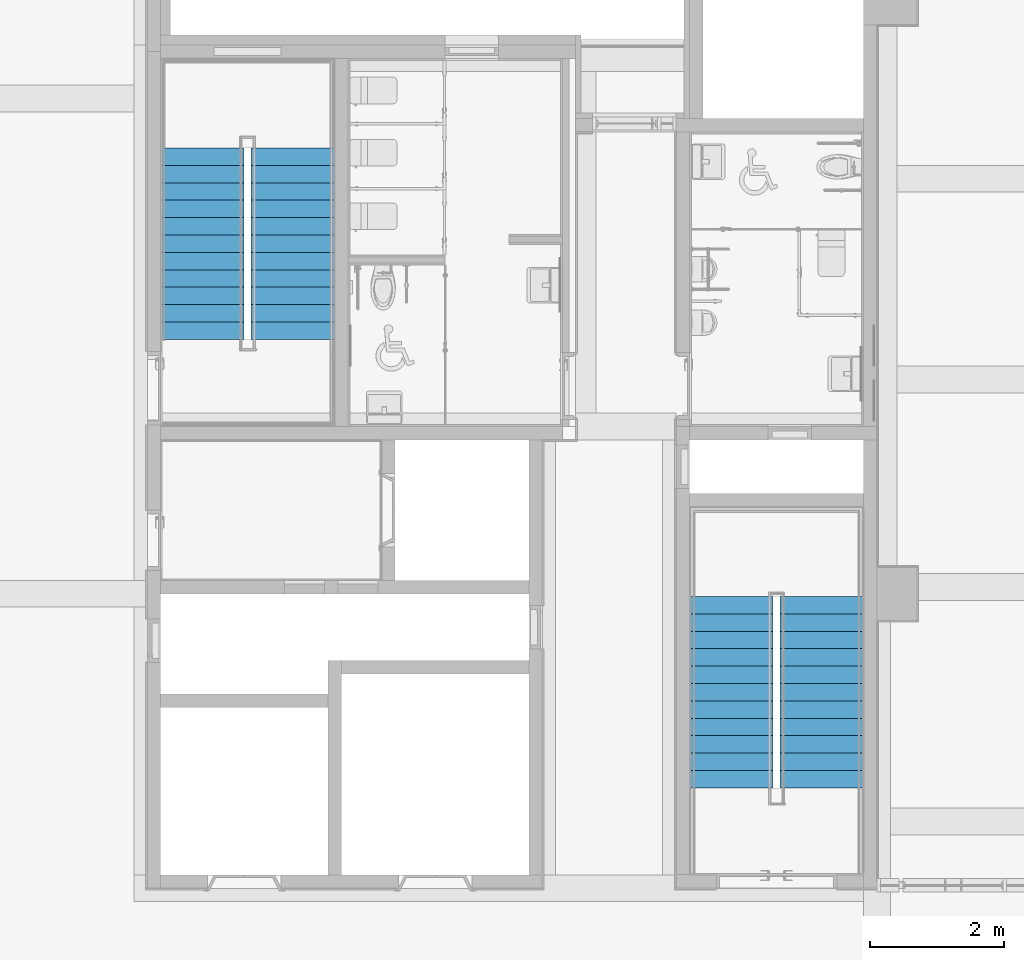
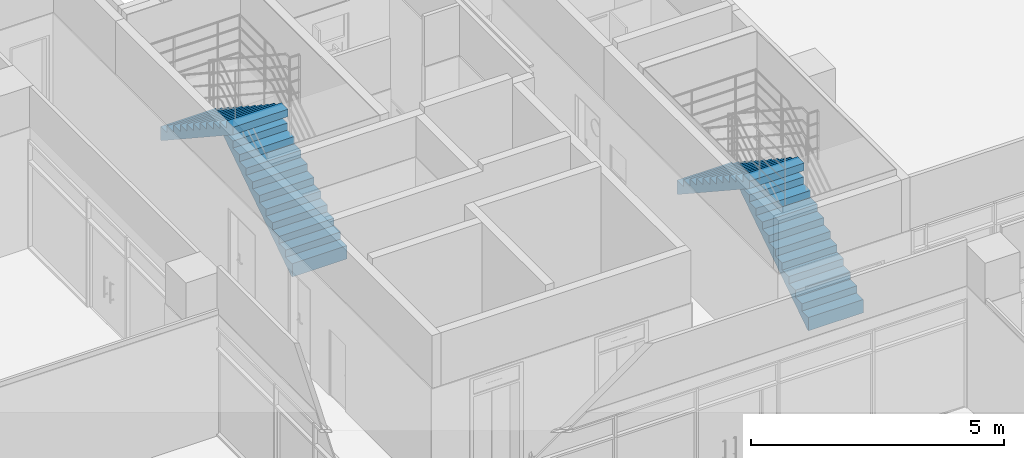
# One storey, part 65 of 76: 4 stair flights, 2 elements without a shape of their own.
"""IFC2X3 building model written with IfcOpenShell, lengths in millimetres."""

from ifc_helpers import new_model, entity, si_unit, converted_unit, derived_unit, direction, frame, origin, place, context, subcontext, project, spatial, faceted_brep, material, type_object, element, aggregate, save


model = new_model("IFC2X3")

# Units and contexts
model_context = context("Model", 3, precision=0.01, world=origin(), true_north=direction((6.123031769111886e-17, 1.0)))
body_context = subcontext(model_context, "Body", "Model", "MODEL_VIEW")
ifc_project = project(units=[si_unit("LENGTHUNIT", "METRE", prefix="MILLI"), si_unit("AREAUNIT", "SQUARE_METRE"), si_unit("VOLUMEUNIT", "CUBIC_METRE"), converted_unit("PLANEANGLEUNIT", "DEGREE", entity("IfcRatioMeasure", 0.017453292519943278), si_unit("PLANEANGLEUNIT", "RADIAN"), dimensions=[0, 0, 0, 0, 0, 0, 0]), si_unit("MASSUNIT", "GRAM", prefix="KILO"), derived_unit("MASSDENSITYUNIT", [(si_unit("MASSUNIT", "GRAM", prefix="KILO"), 1), (si_unit("LENGTHUNIT", "METRE"), -3)]), derived_unit("MOMENTOFINERTIAUNIT", [(si_unit("LENGTHUNIT", "METRE"), 4)]), si_unit("TIMEUNIT", "SECOND"), si_unit("FREQUENCYUNIT", "HERTZ"), si_unit("THERMODYNAMICTEMPERATUREUNIT", "DEGREE_CELSIUS"), derived_unit("THERMALTRANSMITTANCEUNIT", [(si_unit("MASSUNIT", "GRAM", prefix="KILO"), 1), (si_unit("THERMODYNAMICTEMPERATUREUNIT", "KELVIN"), -1), (si_unit("TIMEUNIT", "SECOND"), -3)]), derived_unit("VOLUMETRICFLOWRATEUNIT", [(si_unit("LENGTHUNIT", "METRE"), 3), (si_unit("TIMEUNIT", "SECOND"), -1)]), derived_unit("MASSFLOWRATEUNIT", [(si_unit("MASSUNIT", "GRAM", prefix="KILO"), 1), (si_unit("TIMEUNIT", "SECOND"), -1)]), derived_unit("ROTATIONALFREQUENCYUNIT", [(si_unit("TIMEUNIT", "SECOND"), -1)]), si_unit("ELECTRICCURRENTUNIT", "AMPERE"), si_unit("ELECTRICVOLTAGEUNIT", "VOLT"), si_unit("POWERUNIT", "WATT"), si_unit("FORCEUNIT", "NEWTON", prefix="KILO"), si_unit("ILLUMINANCEUNIT", "LUX"), si_unit("LUMINOUSFLUXUNIT", "LUMEN"), si_unit("LUMINOUSINTENSITYUNIT", "CANDELA"), derived_unit("USERDEFINED", [(si_unit("MASSUNIT", "GRAM", prefix="KILO"), -1), (si_unit("LENGTHUNIT", "METRE"), -2), (si_unit("TIMEUNIT", "SECOND"), 3), (si_unit("LUMINOUSFLUXUNIT", "LUMEN"), 1)]), derived_unit("SOUNDPOWERUNIT", [(si_unit("MASSUNIT", "GRAM", prefix="KILO"), 1), (si_unit("LENGTHUNIT", "METRE"), 2), (si_unit("TIMEUNIT", "SECOND"), -3)]), derived_unit("SOUNDPRESSUREUNIT", [(si_unit("MASSUNIT", "GRAM", prefix="KILO"), 1), (si_unit("LENGTHUNIT", "METRE"), -1), (si_unit("TIMEUNIT", "SECOND"), -2)]), derived_unit("LINEARVELOCITYUNIT", [(si_unit("LENGTHUNIT", "METRE"), 1), (si_unit("TIMEUNIT", "SECOND"), -1)]), si_unit("PRESSUREUNIT", "PASCAL"), derived_unit("USERDEFINED", [(si_unit("LENGTHUNIT", "METRE"), -2), (si_unit("MASSUNIT", "GRAM", prefix="KILO"), 1), (si_unit("TIMEUNIT", "SECOND"), -2)]), derived_unit("LINEARFORCEUNIT", [(si_unit("MASSUNIT", "GRAM", prefix="KILO"), 1), (si_unit("LENGTHUNIT", "METRE"), 1), (si_unit("TIMEUNIT", "SECOND"), -2), (si_unit("LENGTHUNIT", "METRE"), -1)]), derived_unit("PLANARFORCEUNIT", [(si_unit("MASSUNIT", "GRAM", prefix="KILO"), 1), (si_unit("LENGTHUNIT", "METRE"), 1), (si_unit("TIMEUNIT", "SECOND"), -2), (si_unit("LENGTHUNIT", "METRE"), -2)])], contexts=[model_context])

# Site, building, storey
site_placement = place(None, frame((-14167.972527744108, -657.2125860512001, 0.0)))
site = spatial("IfcSite", under=ifc_project, at=site_placement, Name="Default", CompositionType="ELEMENT")
building_placement = place(site_placement, origin())
building = spatial("IfcBuilding", under=site, at=building_placement, Name="Sample Building", CompositionType="ELEMENT")
storey_placement = place(building_placement, frame((0.0, 0.0, 9300.0)))
storey = spatial("IfcBuildingStorey", under=building, at=storey_placement, Name="지상 3층", CompositionType="ELEMENT", Elevation=9300.000000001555)

# Stair, stair flights
stair_1_placement = place(storey_placement, origin())
stair_1 = element("IfcStair", 1, at=stair_1_placement, inside=storey, Name="현장타설 계단:계단", ObjectType="현장타설 계단:ST111-철근콘크리트구조 계단 (U형)", ShapeType="NOTDEFINED")
ifc_material = material(Name="KBIMS-콘크리트")
stair_flight_type_1 = type_object("IfcStairFlightType", Name="일체형 계단진행:일체형 계단진행 150mm_철근콘크리트", PredefinedType="STRAIGHT")
stair_flight_1_placement = place(stair_1_placement, frame((31616.117033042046, 23757.17779328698, 0.0)))
stair_flight_1 = element("IfcStairFlight", 2, at=stair_flight_1_placement, type_object=stair_flight_type_1, material=ifc_material, Name="현장타설 계단:계단:5314813 Run 1", ObjectType="일체형 계단진행:일체형 계단진행 150mm_철근콘크리트", NumberOfRiser=12, NumberOfTreads=11, RiserHeight=0.5604768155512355, TreadLength=0.8530183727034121, context=body_context, shape_type="Brep", body=[
    faceted_brep([(0.0, 260.0, 170.833332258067), (0.0, 0.0, 170.833332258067), (1250.0087814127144, 0.0, 170.833332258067), (1250.0087814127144, 260.0, 170.833332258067), (0.0, 260.0, -8.648195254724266), (0.0, 44.86944673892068, -150.00000112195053), (0.0, 0.0, -150.00000112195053), (1250.0087814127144, 0.0, -150.00000112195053), (1250.0087814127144, 44.86944673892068, -150.00000112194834), (1250.0087814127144, 260.0, -8.648195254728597), (0.0, 520.0, 341.66666563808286), (0.0, 260.0, 341.66666563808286), (1250.0087814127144, 260.0, 341.66666563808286), (1250.0087814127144, 520.0, 341.66666563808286), (0.0, 520.0, 162.18513812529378), (1250.0087814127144, 520.0, 162.18513812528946), (0.0, 780.0, 512.4999990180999), (0.0, 520.0, 512.4999990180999), (1250.0087814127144, 520.0, 512.4999990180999), (1250.0087814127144, 780.0, 512.4999990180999), (0.0, 780.0, 333.0184715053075), (1250.0087814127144, 780.0, 333.01847150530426), (0.0, 1040.0, 683.3333323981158), (0.0, 780.0, 683.3333323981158), (1250.0087814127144, 780.0, 683.3333323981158), (1250.0087814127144, 1040.0, 683.3333323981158), (0.0, 1040.0, 503.85180488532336), (1250.0087814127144, 1040.0, 503.8518048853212), (0.0, 1300.0, 854.1666657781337), (0.0, 1040.0, 854.1666657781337), (1250.0087814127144, 1040.0, 854.1666657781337), (1250.0087814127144, 1300.0, 854.1666657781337), (0.0, 1300.0, 674.6851382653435), (1250.0087814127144, 1300.0, 674.6851382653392), (0.0, 1560.0, 1025.0), (0.0, 1300.0, 1025.0), (1250.0087814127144, 1300.0, 1025.0), (1250.0087814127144, 1560.0, 1025.0), (0.0, 1560.0, 845.5184716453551), (1250.0087814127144, 1560.0, 845.518471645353), (0.0, 1820.0, 1195.8333325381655), (0.0, 1560.0, 1195.8333325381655), (1250.0087814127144, 1560.0, 1195.8333325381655), (1250.0087814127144, 1820.0, 1195.8333325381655), (0.0, 1820.0, 1016.3518050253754), (1250.0087814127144, 1820.0, 1016.351805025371), (0.0, 2080.0, 1366.6666659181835), (0.0, 1820.0, 1366.6666659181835), (1250.0087814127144, 1820.0, 1366.6666659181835), (1250.0087814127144, 2080.0, 1366.6666659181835), (0.0, 2080.0, 1187.1851384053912), (1250.0087814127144, 2080.0, 1187.1851384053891), (0.0, 2340.0, 1537.4999992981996), (0.0, 2080.0, 1537.4999992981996), (1250.0087814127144, 2080.0, 1537.4999992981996), (1250.0087814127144, 2340.0, 1537.4999992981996), (0.0, 2340.0, 1358.018471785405), (1250.0087814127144, 2340.0, 1358.0184717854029), (0.0, 2600.0, 1708.3333326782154), (0.0, 2340.0, 1708.3333326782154), (1250.0087814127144, 2340.0, 1708.3333326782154), (1250.0087814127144, 2600.0, 1708.3333326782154), (0.0, 2600.0, 1528.851805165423), (1250.0087814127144, 2600.0, 1528.8518051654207), (0.0, 2860.0, 1879.1666660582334), (0.0, 2600.0, 1879.1666660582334), (1250.0087814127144, 2600.0, 1879.1666660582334), (1250.0087814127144, 2860.0, 1879.1666660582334), (0.0, 2860.0, 1699.685138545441), (1250.0087814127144, 2860.0, 1699.6851385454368)], [[[0, 1, 2, 3]], [[1, 0, 4, 5, 6]], [[2, 1, 6, 7]], [[3, 2, 7, 8, 9]], [[10, 11, 12, 13]], [[11, 10, 14, 4, 0]], [[0, 3, 12, 11]], [[13, 12, 3, 9, 15]], [[16, 17, 18, 19]], [[17, 16, 20, 14, 10]], [[10, 13, 18, 17]], [[19, 18, 13, 15, 21]], [[22, 23, 24, 25]], [[23, 22, 26, 20, 16]], [[16, 19, 24, 23]], [[25, 24, 19, 21, 27]], [[28, 29, 30, 31]], [[29, 28, 32, 26, 22]], [[22, 25, 30, 29]], [[31, 30, 25, 27, 33]], [[34, 35, 36, 37]], [[35, 34, 38, 32, 28]], [[28, 31, 36, 35]], [[37, 36, 31, 33, 39]], [[40, 41, 42, 43]], [[41, 40, 44, 38, 34]], [[34, 37, 42, 41]], [[43, 42, 37, 39, 45]], [[46, 47, 48, 49]], [[47, 46, 50, 44, 40]], [[40, 43, 48, 47]], [[49, 48, 43, 45, 51]], [[52, 53, 54, 55]], [[53, 52, 56, 50, 46]], [[46, 49, 54, 53]], [[55, 54, 49, 51, 57]], [[58, 59, 60, 61]], [[59, 58, 62, 56, 52]], [[52, 55, 60, 59]], [[61, 60, 55, 57, 63]], [[64, 65, 66, 67]], [[65, 64, 68, 62, 58]], [[58, 61, 66, 65]], [[67, 66, 61, 63, 69]], [[64, 67, 69, 68]], [[7, 6, 5, 8]], [[8, 5, 4, 14, 20, 26, 32, 38, 44, 50, 56, 62, 68, 69, 63, 57, 51, 45, 39, 33, 27, 21, 15, 9]]]),
])
stair_flight_type_2 = type_object("IfcStairFlightType", Name="일체형 계단진행:일체형 계단진행 150mm_철근콘크리트", PredefinedType="STRAIGHT")
stair_flight_2_placement = place(stair_1_placement, frame((30266.125814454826, 23757.143387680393, 0.0)))
stair_flight_2 = element("IfcStairFlight", 3, at=stair_flight_2_placement, type_object=stair_flight_type_2, material=ifc_material, Name="현장타설 계단:계단:5314813 Run 2", ObjectType="일체형 계단진행:일체형 계단진행 150mm_철근콘크리트", NumberOfRiser=12, NumberOfTreads=11, RiserHeight=0.5604768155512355, TreadLength=0.8530183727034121, context=body_context, shape_type="Brep", body=[
    faceted_brep([(1249.9990872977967, 2860.0, 2220.8333328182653), (0.0, 2860.0, 2220.8333328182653), (0.0, 2815.130553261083, 2220.8333328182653), (0.0, 2600.0, 2220.8333328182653), (1249.9990872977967, 2600.0, 2220.8333328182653), (1249.9990872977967, 2815.130553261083, 2220.8333328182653), (1249.9990872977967, 2600.0, 2041.3518053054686), (1249.9990872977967, 2815.130553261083, 1900.0), (1249.9990872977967, 2860.0, 1900.0), (0.0, 2860.0, 1900.0), (0.0, 2860.0, 2050.0), (0.0, 2815.130553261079, 1900.0), (0.0, 2600.0, 2041.3518053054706), (1249.9990872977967, 2340.0, 2391.666666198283), (1249.9990872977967, 2600.0, 2391.666666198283), (0.0, 2600.0, 2391.666666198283), (0.0, 2340.0, 2391.666666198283), (1249.9990872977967, 2340.0, 2212.185138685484), (0.0, 2340.0, 2212.185138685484), (1249.9990872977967, 2080.0, 2562.499999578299), (1249.9990872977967, 2340.0, 2562.499999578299), (0.0, 2340.0, 2562.499999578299), (0.0, 2080.0, 2562.499999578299), (1249.9990872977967, 2080.0, 2383.0184720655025), (0.0, 2080.0, 2383.0184720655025), (1249.9990872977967, 1820.0, 2733.333332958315), (1249.9990872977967, 2080.0, 2733.333332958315), (0.0, 2080.0, 2733.333332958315), (0.0, 1820.0, 2733.333332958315), (1249.9990872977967, 1820.0, 2553.8518054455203), (0.0, 1820.0, 2553.8518054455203), (1249.9990872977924, 1560.0, 2904.166666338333), (1249.9990872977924, 1820.0, 2904.166666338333), (0.0, 1820.0, 2904.166666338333), (0.0, 1560.0, 2904.166666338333), (1249.9990872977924, 1560.0, 2724.6851388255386), (0.0, 1560.0, 2724.685138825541), (1249.9990872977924, 1300.0, 3075.0), (1249.9990872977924, 1560.0, 3075.0), (0.0, 1560.0, 3075.0), (0.0, 1300.0, 3075.0), (1249.9990872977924, 1300.0, 2895.5184722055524), (0.0, 1300.0, 2895.5184722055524), (1249.9990872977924, 1040.0, 3245.8333330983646), (1249.9990872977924, 1300.0, 3245.8333330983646), (0.0, 1300.0, 3245.8333330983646), (0.0, 1040.0, 3245.8333330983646), (1249.9990872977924, 1040.0, 3066.35180558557), (0.0, 1040.0, 3066.35180558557), (1249.9990872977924, 780.0, 3416.666666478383), (1249.9990872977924, 1040.0, 3416.666666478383), (0.0, 1040.0, 3416.666666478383), (0.0, 780.0, 3416.666666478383), (1249.9990872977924, 780.0, 3237.185138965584), (0.0, 780.0, 3237.1851389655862), (1249.9990872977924, 520.0, 3587.4999998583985), (1249.9990872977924, 780.0, 3587.4999998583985), (0.0, 780.0, 3587.4999998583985), (0.0, 520.0, 3587.4999998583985), (1249.9990872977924, 520.0, 3408.0184723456), (0.0, 520.0, 3408.018472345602), (1249.9990872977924, 260.0, 3578.851805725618), (1249.9990872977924, 0.0, 3749.6851391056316), (0.0, 0.0, 3749.685139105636), (0.0, 260.0, 3578.851805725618), (1249.9990872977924, 260.0, 3758.3333332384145), (1249.9990872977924, 520.0, 3758.3333332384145), (0.0, 520.0, 3758.3333332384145), (0.0, 260.0, 3758.3333332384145), (1249.9990872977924, 0.0, 3929.166666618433), (1249.9990872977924, 260.0, 3929.166666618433), (0.0, 260.0, 3929.166666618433), (0.0, 0.0, 3929.166666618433)], [[[0, 1, 2, 3, 4, 5]], [[4, 6, 7, 8, 0, 5]], [[1, 0, 8, 9, 10]], [[1, 10, 9, 11, 12, 3, 2]], [[13, 14, 15, 16]], [[14, 13, 17, 6, 4]], [[15, 14, 4, 3]], [[16, 15, 3, 12, 18]], [[19, 20, 21, 22]], [[20, 19, 23, 17, 13]], [[21, 20, 13, 16]], [[22, 21, 16, 18, 24]], [[25, 26, 27, 28]], [[26, 25, 29, 23, 19]], [[27, 26, 19, 22]], [[28, 27, 22, 24, 30]], [[31, 32, 33, 34]], [[32, 31, 35, 29, 25]], [[33, 32, 25, 28]], [[34, 33, 28, 30, 36]], [[37, 38, 39, 40]], [[38, 37, 41, 35, 31]], [[39, 38, 31, 34]], [[40, 39, 34, 36, 42]], [[43, 44, 45, 46]], [[44, 43, 47, 41, 37]], [[45, 44, 37, 40]], [[46, 45, 40, 42, 48]], [[49, 50, 51, 52]], [[50, 49, 53, 47, 43]], [[51, 50, 43, 46]], [[52, 51, 46, 48, 54]], [[55, 56, 57, 58]], [[56, 55, 59, 53, 49]], [[57, 56, 49, 52]], [[58, 57, 52, 54, 60]], [[11, 7, 6, 17, 23, 29, 35, 41, 47, 53, 59, 61, 62, 63, 64, 60, 54, 48, 42, 36, 30, 24, 18, 12]], [[7, 11, 9, 8]], [[65, 66, 67, 68]], [[66, 65, 61, 59, 55]], [[67, 66, 55, 58]], [[68, 67, 58, 60, 64]], [[69, 70, 71, 72]], [[70, 69, 62, 61, 65]], [[71, 70, 65, 68]], [[72, 71, 68, 64, 63]], [[69, 72, 63, 62]]]),
])
aggregate(stair_1, [stair_flight_1, stair_flight_2])

stair_2_placement = place(storey_placement, origin())
stair_2 = element("IfcStair", 4, at=stair_2_placement, inside=storey, Name="현장타설 계단:계단", ObjectType="현장타설 계단:ST111-철근콘크리트구조 계단 (U형)", ShapeType="NOTDEFINED")
stair_flight_type_3 = type_object("IfcStairFlightType", Name="일체형 계단진행:일체형 계단진행 150mm_철근콘크리트", PredefinedType="STRAIGHT")
stair_flight_3_placement = place(stair_2_placement, frame((39515.97820509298, 17057.17778994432, 0.0)))
stair_flight_3 = element("IfcStairFlight", 5, at=stair_flight_3_placement, type_object=stair_flight_type_3, material=ifc_material, Name="현장타설 계단:계단:5315225 Run 1", ObjectType="일체형 계단진행:일체형 계단진행 150mm_철근콘크리트", NumberOfRiser=12, NumberOfTreads=11, RiserHeight=0.5604768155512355, TreadLength=0.8530183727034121, context=body_context, shape_type="Brep", body=[
    faceted_brep([(0.0, 260.0, 170.833332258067), (0.0, 0.0, 170.833332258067), (1250.0087814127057, 0.0, 170.833332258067), (1250.0087814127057, 260.0, 170.833332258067), (0.0, 260.0, -8.648195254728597), (0.0, 44.86944673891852, -150.00000112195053), (0.0, 0.0, -150.00000112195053), (1250.0087814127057, 0.0, -150.00000112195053), (1250.0087814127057, 44.86944673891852, -150.00000112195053), (1250.0087814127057, 260.0, -8.64819525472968), (0.0, 520.0, 341.66666563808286), (0.0, 260.0, 341.66666563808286), (1250.0087814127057, 260.0, 341.66666563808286), (1250.0087814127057, 520.0, 341.66666563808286), (0.0, 520.0, 162.1851381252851), (1250.0087814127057, 520.0, 162.1851381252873), (0.0, 780.0, 512.4999990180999), (0.0, 520.0, 512.4999990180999), (1250.0087814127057, 520.0, 512.4999990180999), (1250.0087814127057, 780.0, 512.4999990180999), (0.0, 780.0, 333.0184715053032), (1250.0087814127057, 780.0, 333.01847150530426), (0.0, 1040.0, 683.3333323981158), (0.0, 780.0, 683.3333323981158), (1250.0087814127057, 780.0, 683.3333323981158), (1250.0087814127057, 1040.0, 683.3333323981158), (0.0, 1040.0, 503.8518048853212), (1250.0087814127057, 1040.0, 503.8518048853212), (0.0, 1300.0, 854.1666657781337), (0.0, 1040.0, 854.1666657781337), (1250.0087814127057, 1040.0, 854.1666657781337), (1250.0087814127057, 1300.0, 854.1666657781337), (0.0, 1300.0, 674.6851382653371), (1250.0087814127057, 1300.0, 674.6851382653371), (0.0, 1560.0, 1025.0), (0.0, 1300.0, 1025.0), (1250.0087814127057, 1300.0, 1025.0), (1250.0087814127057, 1560.0, 1025.0), (0.0, 1560.0, 845.518471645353), (1250.0087814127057, 1560.0, 845.5184716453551), (0.0, 1820.0, 1195.8333325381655), (0.0, 1560.0, 1195.8333325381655), (1250.0087814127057, 1560.0, 1195.8333325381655), (1250.0087814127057, 1820.0, 1195.8333325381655), (0.0, 1820.0, 1016.3518050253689), (1250.0087814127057, 1820.0, 1016.351805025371), (0.0, 2080.0, 1366.6666659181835), (0.0, 1820.0, 1366.6666659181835), (1250.0087814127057, 1820.0, 1366.6666659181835), (1250.0087814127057, 2080.0, 1366.6666659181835), (0.0, 2080.0, 1187.1851384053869), (1250.0087814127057, 2080.0, 1187.1851384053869), (0.0, 2340.0, 1537.4999992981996), (0.0, 2080.0, 1537.4999992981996), (1250.0087814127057, 2080.0, 1537.4999992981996), (1250.0087814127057, 2340.0, 1537.4999992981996), (0.0, 2340.0, 1358.0184717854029), (1250.0087814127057, 2340.0, 1358.0184717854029), (0.0, 2600.0, 1708.3333326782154), (0.0, 2340.0, 1708.3333326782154), (1250.0087814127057, 2340.0, 1708.3333326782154), (1250.0087814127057, 2600.0, 1708.3333326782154), (0.0, 2600.0, 1528.8518051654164), (1250.0087814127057, 2600.0, 1528.8518051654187), (0.0, 2860.0, 1879.1666660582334), (0.0, 2600.0, 1879.1666660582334), (1250.0087814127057, 2600.0, 1879.1666660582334), (1250.0087814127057, 2860.0, 1879.1666660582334), (0.0, 2860.0, 1699.6851385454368), (1250.0087814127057, 2860.0, 1699.6851385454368)], [[[0, 1, 2, 3]], [[1, 0, 4, 5, 6]], [[2, 1, 6, 7]], [[3, 2, 7, 8, 9]], [[10, 11, 12, 13]], [[11, 10, 14, 4, 0]], [[0, 3, 12, 11]], [[13, 12, 3, 9, 15]], [[16, 17, 18, 19]], [[17, 16, 20, 14, 10]], [[10, 13, 18, 17]], [[19, 18, 13, 15, 21]], [[22, 23, 24, 25]], [[23, 22, 26, 20, 16]], [[16, 19, 24, 23]], [[25, 24, 19, 21, 27]], [[28, 29, 30, 31]], [[29, 28, 32, 26, 22]], [[22, 25, 30, 29]], [[31, 30, 25, 27, 33]], [[34, 35, 36, 37]], [[35, 34, 38, 32, 28]], [[28, 31, 36, 35]], [[37, 36, 31, 33, 39]], [[40, 41, 42, 43]], [[41, 40, 44, 38, 34]], [[34, 37, 42, 41]], [[43, 42, 37, 39, 45]], [[46, 47, 48, 49]], [[47, 46, 50, 44, 40]], [[40, 43, 48, 47]], [[49, 48, 43, 45, 51]], [[52, 53, 54, 55]], [[53, 52, 56, 50, 46]], [[46, 49, 54, 53]], [[55, 54, 49, 51, 57]], [[58, 59, 60, 61]], [[59, 58, 62, 56, 52]], [[52, 55, 60, 59]], [[61, 60, 55, 57, 63]], [[64, 65, 66, 67]], [[65, 64, 68, 62, 58]], [[58, 61, 66, 65]], [[67, 66, 61, 63, 69]], [[64, 67, 69, 68]], [[7, 6, 5, 8]], [[8, 5, 4, 14, 20, 26, 32, 38, 44, 50, 56, 62, 68, 69, 63, 57, 51, 45, 39, 33, 27, 21, 15, 9]]]),
])
stair_flight_type_4 = type_object("IfcStairFlightType", Name="일체형 계단진행:일체형 계단진행 150mm_철근콘크리트", PredefinedType="STRAIGHT")
stair_flight_4_placement = place(stair_2_placement, frame((38165.986986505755, 17057.14338433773, 0.0)))
stair_flight_4 = element("IfcStairFlight", 6, at=stair_flight_4_placement, type_object=stair_flight_type_4, material=ifc_material, Name="현장타설 계단:계단:5315225 Run 2", ObjectType="일체형 계단진행:일체형 계단진행 150mm_철근콘크리트", NumberOfRiser=12, NumberOfTreads=11, RiserHeight=0.5604768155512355, TreadLength=0.8530183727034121, context=body_context, shape_type="Brep", body=[
    faceted_brep([(1249.999087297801, 2860.0, 2220.8333328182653), (0.0, 2860.0, 2220.8333328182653), (0.0, 2815.130553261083, 2220.8333328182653), (0.0, 2600.0, 2220.8333328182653), (1249.999087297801, 2600.0, 2220.8333328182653), (1249.999087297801, 2815.130553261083, 2220.8333328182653), (1249.999087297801, 2600.0, 2041.3518053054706), (1249.999087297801, 2815.130553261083, 1900.0), (1249.999087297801, 2860.0, 1900.0), (0.0, 2860.0, 1900.0), (0.0, 2860.0, 2050.0), (0.0, 2815.130553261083, 1900.0), (0.0, 2600.0, 2041.3518053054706), (1249.999087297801, 2340.0, 2391.666666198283), (1249.999087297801, 2600.0, 2391.666666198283), (0.0, 2600.0, 2391.666666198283), (0.0, 2340.0, 2391.666666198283), (1249.999087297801, 2340.0, 2212.1851386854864), (0.0, 2340.0, 2212.1851386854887), (1249.999087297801, 2080.0, 2562.499999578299), (1249.999087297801, 2340.0, 2562.499999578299), (0.0, 2340.0, 2562.499999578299), (0.0, 2080.0, 2562.499999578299), (1249.999087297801, 2080.0, 2383.0184720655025), (0.0, 2080.0, 2383.0184720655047), (1249.999087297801, 1820.0, 2733.333332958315), (1249.999087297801, 2080.0, 2733.333332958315), (0.0, 2080.0, 2733.333332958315), (0.0, 1820.0, 2733.333332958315), (1249.999087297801, 1820.0, 2553.8518054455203), (0.0, 1820.0, 2553.8518054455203), (1249.999087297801, 1560.0, 2904.166666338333), (1249.999087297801, 1820.0, 2904.166666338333), (0.0, 1820.0, 2904.166666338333), (0.0, 1560.0, 2904.166666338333), (1249.999087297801, 1560.0, 2724.6851388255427), (0.0, 1560.0, 2724.6851388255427), (1249.999087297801, 1300.0, 3075.0), (1249.999087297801, 1560.0, 3075.0), (0.0, 1560.0, 3075.0), (0.0, 1300.0, 3075.0), (1249.999087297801, 1300.0, 2895.5184722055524), (0.0, 1300.0, 2895.518472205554), (1249.999087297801, 1040.0, 3245.8333330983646), (1249.999087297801, 1300.0, 3245.8333330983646), (0.0, 1300.0, 3245.8333330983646), (0.0, 1040.0, 3245.8333330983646), (1249.999087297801, 1040.0, 3066.351805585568), (0.0, 1040.0, 3066.35180558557), (1249.999087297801, 780.0, 3416.666666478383), (1249.999087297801, 1040.0, 3416.666666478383), (0.0, 1040.0, 3416.666666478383), (0.0, 780.0, 3416.666666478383), (1249.999087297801, 780.0, 3237.185138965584), (0.0, 780.0, 3237.1851389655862), (1249.999087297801, 520.0, 3587.4999998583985), (1249.999087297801, 780.0, 3587.4999998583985), (0.0, 780.0, 3587.4999998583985), (0.0, 520.0, 3587.4999998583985), (1249.999087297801, 520.0, 3408.018472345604), (0.0, 520.0, 3408.018472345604), (1249.9990872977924, 260.0, 3578.851805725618), (1249.9990872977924, 0.0, 3749.685139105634), (0.0, 0.0, 3749.685139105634), (0.0, 260.0, 3578.851805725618), (1249.9990872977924, 260.0, 3758.3333332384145), (1249.9990872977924, 520.0, 3758.3333332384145), (0.0, 520.0, 3758.3333332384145), (0.0, 260.0, 3758.3333332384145), (1249.9990872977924, 0.0, 3929.166666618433), (1249.9990872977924, 260.0, 3929.166666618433), (0.0, 260.0, 3929.166666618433), (0.0, 0.0, 3929.166666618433)], [[[0, 1, 2, 3, 4, 5]], [[4, 6, 7, 8, 0, 5]], [[1, 0, 8, 9, 10]], [[1, 10, 9, 11, 12, 3, 2]], [[13, 14, 15, 16]], [[14, 13, 17, 6, 4]], [[15, 14, 4, 3]], [[16, 15, 3, 12, 18]], [[19, 20, 21, 22]], [[20, 19, 23, 17, 13]], [[21, 20, 13, 16]], [[22, 21, 16, 18, 24]], [[25, 26, 27, 28]], [[26, 25, 29, 23, 19]], [[27, 26, 19, 22]], [[28, 27, 22, 24, 30]], [[31, 32, 33, 34]], [[32, 31, 35, 29, 25]], [[33, 32, 25, 28]], [[34, 33, 28, 30, 36]], [[37, 38, 39, 40]], [[38, 37, 41, 35, 31]], [[39, 38, 31, 34]], [[40, 39, 34, 36, 42]], [[43, 44, 45, 46]], [[44, 43, 47, 41, 37]], [[45, 44, 37, 40]], [[46, 45, 40, 42, 48]], [[49, 50, 51, 52]], [[50, 49, 53, 47, 43]], [[51, 50, 43, 46]], [[52, 51, 46, 48, 54]], [[55, 56, 57, 58]], [[56, 55, 59, 53, 49]], [[57, 56, 49, 52]], [[58, 57, 52, 54, 60]], [[11, 7, 6, 17, 23, 29, 35, 41, 47, 53, 59, 61, 62, 63, 64, 60, 54, 48, 42, 36, 30, 24, 18, 12]], [[7, 11, 9, 8]], [[65, 66, 67, 68]], [[66, 65, 61, 59, 55]], [[67, 66, 55, 58]], [[68, 67, 58, 60, 64]], [[69, 70, 71, 72]], [[70, 69, 62, 61, 65]], [[71, 70, 65, 68]], [[72, 71, 68, 64, 63]], [[69, 72, 63, 62]]]),
])
aggregate(stair_2, [stair_flight_3, stair_flight_4])

save(model, "model.ifc")
